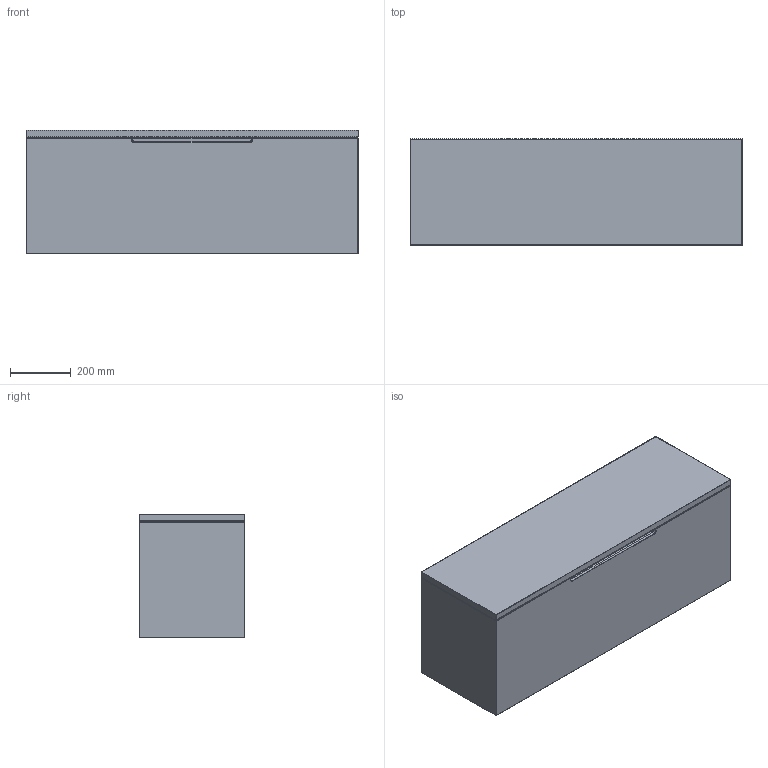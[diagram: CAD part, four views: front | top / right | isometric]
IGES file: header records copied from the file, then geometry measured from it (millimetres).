
Start section: SolidWorks IGES file using analytic representation for surfaces
Global section: file name: \\UTENTI\Dati Utenti\Tecnico\DC\2D - 3D per sito\3D\DeCastelli-3D-Tako wall-mounted console 110.igs; native system: SolidWorks 2022; preprocessor: SolidWorks 2022; author: maria; date: 240725.084402; units: millimetre
Bounding box: 1097.5 x 350 x 407 mm (x, y, z)
Surface area: 4008712.1 mm2 (no closed solid volume)
Topology: 0 solids, 0 shells, 192 faces, 2506 edges, 2506 vertices
Faces by surface type: bspline 96, revolution 96
